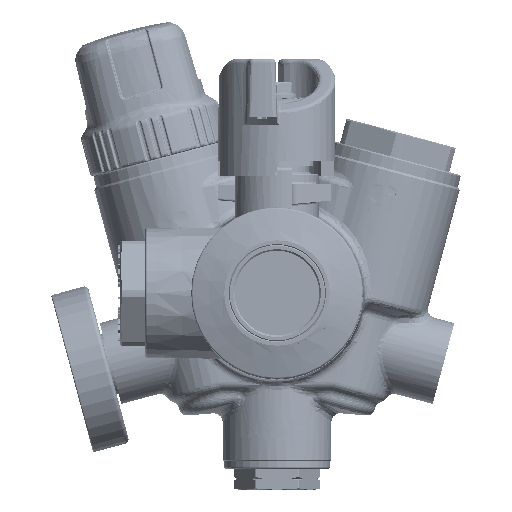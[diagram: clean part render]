
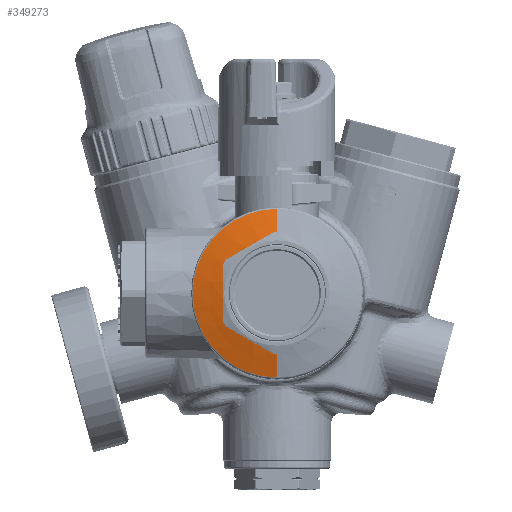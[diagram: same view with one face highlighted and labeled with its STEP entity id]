
A CAD part, top view. The second image highlights one B-rep face of the part: STEP entity #349273.
In plain terms, the highlighted conical face has half-angle 75 degrees and reference radius 16.565 mm.
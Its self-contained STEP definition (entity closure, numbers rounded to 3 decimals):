
#346774=CARTESIAN_POINT('',(-1.581,0.,0.));
#346775=DIRECTION('',(-1.,0.,0.));
#346776=DIRECTION('',(0.,-1.,0.));
#346777=AXIS2_PLACEMENT_3D('',#346774,#346775,#346776);
#346779=CARTESIAN_POINT('',(-1.581,0.,0.));
#346780=DIRECTION('',(-1.,0.,0.));
#346781=DIRECTION('',(0.,-0.544,0.839));
#346782=AXIS2_PLACEMENT_3D('',#346779,#346780,#346781);
#346784=CARTESIAN_POINT('',(-1.581,0.,0.));
#346785=DIRECTION('',(-1.,0.,0.));
#346786=DIRECTION('',(0.,0.455,0.89));
#346787=AXIS2_PLACEMENT_3D('',#346784,#346785,#346786);
#346789=CARTESIAN_POINT('',(-1.581,0.,0.));
#346790=DIRECTION('',(-1.,0.,0.));
#346791=DIRECTION('',(0.,0.999,0.051));
#346792=AXIS2_PLACEMENT_3D('',#346789,#346790,#346791);
#346799=CARTESIAN_POINT('',(-0.099,0.,0.));
#346800=DIRECTION('',(1.,0.,0.));
#346801=DIRECTION('',(0.,1.,0.));
#346802=AXIS2_PLACEMENT_3D('',#346799,#346800,#346801);
#347211=DIRECTION('',(0.259,0.966,0.));
#347212=VECTOR('',#347211,5.724);
#347213=CARTESIAN_POINT('',(-1.581,14.6,0.));
#347214=LINE('',#347213,#347212);
#347235=DIRECTION('',(0.259,-0.966,0.));
#347236=VECTOR('',#347235,5.724);
#347237=CARTESIAN_POINT('',(-1.581,-14.6,0.));
#347238=LINE('',#347237,#347236);
#348844=CARTESIAN_POINT('',(-1.581,-7.936,
12.255));
#348845=CARTESIAN_POINT('',(-1.65,-8.219,
11.765));
#348846=CARTESIAN_POINT('',(-1.773,-8.781,
10.791));
#348847=CARTESIAN_POINT('',(-1.907,-9.603,
9.368));
#348848=CARTESIAN_POINT('',(-1.991,-10.429,
7.937));
#348849=CARTESIAN_POINT('',(-2.019,-11.259,
6.499));
#348850=CARTESIAN_POINT('',(-1.991,-12.089,
5.061));
#348851=CARTESIAN_POINT('',(-1.907,-12.916,
3.63));
#348852=CARTESIAN_POINT('',(-1.772,-13.738,
2.205));
#348853=CARTESIAN_POINT('',(-1.65,-14.299,
1.234));
#348854=CARTESIAN_POINT('',(-1.581,-14.581,
0.745));
#348876=CARTESIAN_POINT('',(-1.581,14.581,
0.745));
#348877=CARTESIAN_POINT('',(-1.65,14.299,
1.234));
#348878=CARTESIAN_POINT('',(-1.772,13.738,
2.205));
#348879=CARTESIAN_POINT('',(-1.907,12.915,
3.631));
#348880=CARTESIAN_POINT('',(-1.991,12.088,
5.062));
#348881=CARTESIAN_POINT('',(-2.019,11.258,
6.501));
#348882=CARTESIAN_POINT('',(-1.991,10.428,
7.938));
#348883=CARTESIAN_POINT('',(-1.907,9.602,
9.369));
#348884=CARTESIAN_POINT('',(-1.773,8.78,
10.792));
#348885=CARTESIAN_POINT('',(-1.65,8.219,
11.765));
#348886=CARTESIAN_POINT('',(-1.581,7.936,
12.255));
#348908=CARTESIAN_POINT('',(-1.581,6.645,13.));
#348909=CARTESIAN_POINT('',(-1.65,6.081,13.));
#348910=CARTESIAN_POINT('',(-1.772,4.959,13.));
#348911=CARTESIAN_POINT('',(-1.907,3.315,13.));
#348912=CARTESIAN_POINT('',(-1.991,1.661,13.));
#348913=CARTESIAN_POINT('',(-2.019,-0.001,13.));
#348914=CARTESIAN_POINT('',(-1.991,-1.662,13.));
#348915=CARTESIAN_POINT('',(-1.907,-3.316,13.));
#348916=CARTESIAN_POINT('',(-1.772,-4.96,13.));
#348917=CARTESIAN_POINT('',(-1.65,-6.081,13.));
#348918=CARTESIAN_POINT('',(-1.581,-6.645,13.));
#348940=CARTESIAN_POINT('',(-1.581,-14.6,0.));
#348941=CARTESIAN_POINT('',(-1.581,-14.581,
0.745));
#348942=VERTEX_POINT('',#348940);
#348943=VERTEX_POINT('',#348941);
#348944=CARTESIAN_POINT('',(-1.581,-7.936,
12.255));
#348945=CARTESIAN_POINT('',(-1.581,-6.645,13.));
#348946=VERTEX_POINT('',#348944);
#348947=VERTEX_POINT('',#348945);
#348948=CARTESIAN_POINT('',(-1.581,6.645,13.));
#348949=CARTESIAN_POINT('',(-1.581,7.936,
12.255));
#348950=VERTEX_POINT('',#348948);
#348951=VERTEX_POINT('',#348949);
#348952=CARTESIAN_POINT('',(-1.581,14.581,
0.745));
#348953=CARTESIAN_POINT('',(-1.581,14.6,0.));
#348954=VERTEX_POINT('',#348952);
#348955=VERTEX_POINT('',#348953);
#348972=CARTESIAN_POINT('',(-0.099,20.129,0.));
#348973=CARTESIAN_POINT('',(-0.099,-20.129,0.));
#348974=VERTEX_POINT('',#348972);
#348975=VERTEX_POINT('',#348973);
#349246=CARTESIAN_POINT('',(-1.054,0.,0.));
#349247=DIRECTION('',(1.,0.,0.));
#349248=DIRECTION('',(0.,-1.,0.));
#349249=AXIS2_PLACEMENT_3D('',#349246,#349247,#349248);
#349250=CONICAL_SURFACE('',#349249,16.565,75.);
#349252=ORIENTED_EDGE('',*,*,#349251,.T.);
#349254=ORIENTED_EDGE('',*,*,#349253,.F.);
#349256=ORIENTED_EDGE('',*,*,#349255,.T.);
#349258=ORIENTED_EDGE('',*,*,#349257,.F.);
#349260=ORIENTED_EDGE('',*,*,#349259,.T.);
#349262=ORIENTED_EDGE('',*,*,#349261,.F.);
#349264=ORIENTED_EDGE('',*,*,#349263,.T.);
#349266=ORIENTED_EDGE('',*,*,#349265,.F.);
#349268=ORIENTED_EDGE('',*,*,#349267,.T.);
#349270=ORIENTED_EDGE('',*,*,#349269,.T.);
#349271=EDGE_LOOP('',(#349252,#349254,#349256,#349258,#349260,#349262,#349264,
#349266,#349268,#349270));
#349272=FACE_OUTER_BOUND('',#349271,.F.);
#349273=ADVANCED_FACE('',(#349272),#349250,.T.);
#346778=CIRCLE('',#346777,14.6);
#346783=CIRCLE('',#346782,14.6);
#346788=CIRCLE('',#346787,14.6);
#346793=CIRCLE('',#346792,14.6);
#346803=CIRCLE('',#346802,20.129);
#348855=B_SPLINE_CURVE_WITH_KNOTS('',3,(#348844,#348845,#348846,#348847,#348848,
#348849,#348850,#348851,#348852,#348853,#348854),.UNSPECIFIED.,.F.,.F.,(4,1,1,1,
1,1,1,1,4),(0.,0.125,0.25,0.375,0.5,0.625,0.75,0.875,1.),
.UNSPECIFIED.);
#348887=B_SPLINE_CURVE_WITH_KNOTS('',3,(#348876,#348877,#348878,#348879,#348880,
#348881,#348882,#348883,#348884,#348885,#348886),.UNSPECIFIED.,.F.,.F.,(4,1,1,1,
1,1,1,1,4),(0.,0.125,0.25,0.375,0.5,0.625,0.75,0.875,1.),
.UNSPECIFIED.);
#348919=B_SPLINE_CURVE_WITH_KNOTS('',3,(#348908,#348909,#348910,#348911,#348912,
#348913,#348914,#348915,#348916,#348917,#348918),.UNSPECIFIED.,.F.,.F.,(4,1,1,1,
1,1,1,1,4),(0.,0.125,0.25,0.375,0.5,0.625,0.75,0.875,1.),
.UNSPECIFIED.);
#349251=EDGE_CURVE('',#348974,#348975,#346803,.T.);
#349253=EDGE_CURVE('',#348942,#348975,#347238,.T.);
#349255=EDGE_CURVE('',#348942,#348943,#346778,.T.);
#349257=EDGE_CURVE('',#348946,#348943,#348855,.T.);
#349259=EDGE_CURVE('',#348946,#348947,#346783,.T.);
#349261=EDGE_CURVE('',#348950,#348947,#348919,.T.);
#349263=EDGE_CURVE('',#348950,#348951,#346788,.T.);
#349265=EDGE_CURVE('',#348954,#348951,#348887,.T.);
#349267=EDGE_CURVE('',#348954,#348955,#346793,.T.);
#349269=EDGE_CURVE('',#348955,#348974,#347214,.T.);
